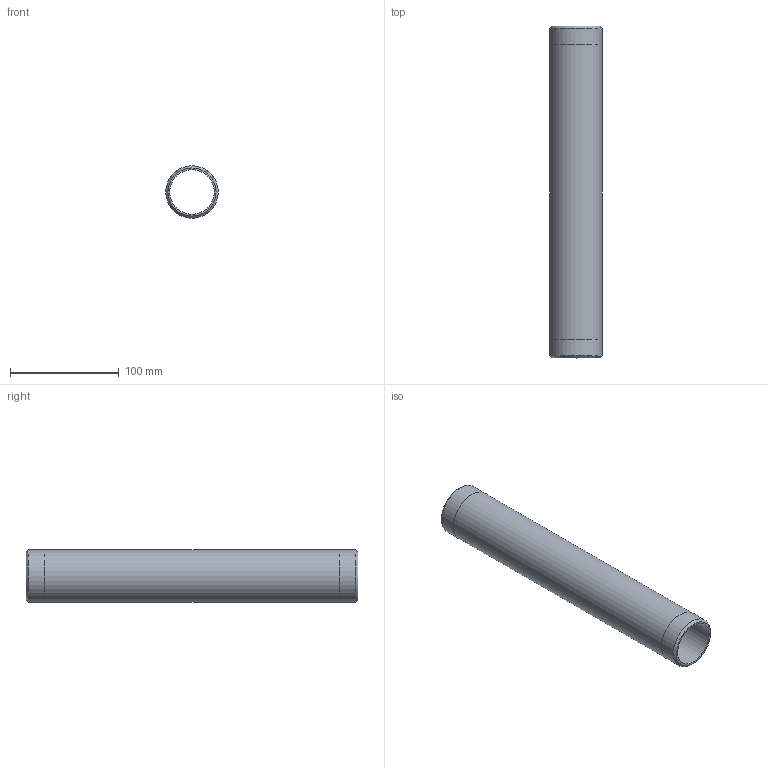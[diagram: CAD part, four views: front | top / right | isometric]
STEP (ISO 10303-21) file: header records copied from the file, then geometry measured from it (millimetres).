
FILE_DESCRIPTION(/* description */ (''),/* implementation_level */ '2;1');
FILE_NAME(/* name */ 'C:/Users/drich/Desktop/BPN1-1_2-12 v1.step',/* time_stamp */ '2020-01-03T14:30:51-06:00',/* author */ (''),/* organization */ (''),/* preprocessor_version */ 'ST-DEVELOPER v18',/* originating_system */ 'Autodesk Translation Framework v8.12.0.6',/* authorisation */ '');
FILE_SCHEMA (('AUTOMOTIVE_DESIGN { 1 0 10303 214 3 1 1 }'));
Length unit declared in the file: inch
Products named in the file (1): BPN1-1_2-12
Bounding box: 48.26 x 304.8 x 48.26 mm (x, y, z)
Volume: 156468.1 mm3; surface area: 86024.8 mm2
Topology: 1 solids, 1 shells, 10 faces, 24 edges, 18 vertices
Faces by surface type: cylinder 4, plane 4, cone 2
Full cylindrical faces by diameter (mm): 40.894 x1, 48.209 x2, 48.26 x1
Entity records: 360 total; most frequent: DIRECTION 64, CARTESIAN_POINT 53, ORIENTED_EDGE 48, AXIS2_PLACEMENT_3D 29, EDGE_CURVE 24, CIRCLE 18, VERTEX_POINT 18, EDGE_LOOP 14
